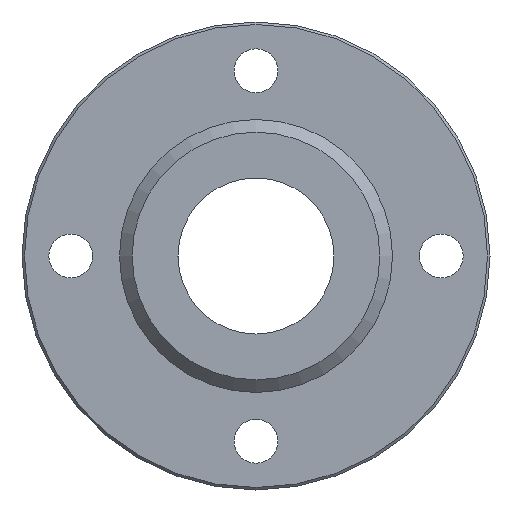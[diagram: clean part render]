
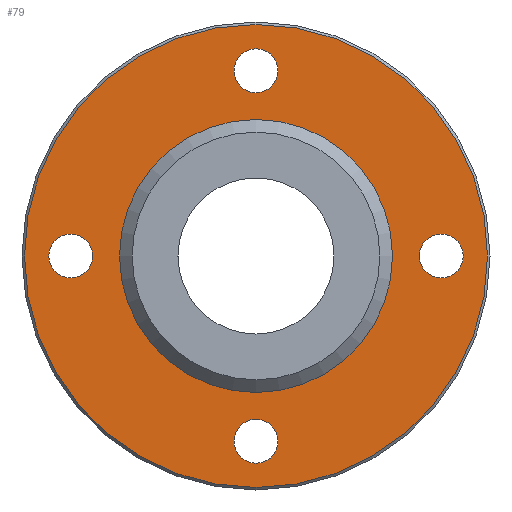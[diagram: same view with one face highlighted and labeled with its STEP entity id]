
A CAD part, left-side view. The second image highlights one B-rep face of the part: STEP entity #79.
In plain terms, the highlighted planar face has unit normal (-1, 0, 0).
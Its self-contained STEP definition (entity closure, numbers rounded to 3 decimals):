
#79=ADVANCED_FACE('',(#109,#110,#111,#112,#113,#114),#115,.F.);
#109=FACE_BOUND('',#180,.T.);
#110=FACE_BOUND('',#181,.T.);
#111=FACE_BOUND('',#182,.T.);
#112=FACE_BOUND('',#183,.T.);
#113=FACE_OUTER_BOUND('',#184,.T.);
#114=FACE_BOUND('',#185,.T.);
#115=PLANE('',#186);
#180=EDGE_LOOP('',(#259));
#181=EDGE_LOOP('',(#260));
#182=EDGE_LOOP('',(#261));
#183=EDGE_LOOP('',(#262));
#184=EDGE_LOOP('',(#263));
#185=EDGE_LOOP('',(#264));
#186=AXIS2_PLACEMENT_3D('',#265,#266,#267);
#259=ORIENTED_EDGE('',*,*,#357,.T.);
#260=ORIENTED_EDGE('',*,*,#358,.T.);
#261=ORIENTED_EDGE('',*,*,#359,.T.);
#262=ORIENTED_EDGE('',*,*,#360,.T.);
#263=ORIENTED_EDGE('',*,*,#361,.T.);
#264=ORIENTED_EDGE('',*,*,#354,.T.);
#265=CARTESIAN_POINT('',(-9.0,23.746,0.0));
#266=DIRECTION('',(1.0,0.0,0.0));
#267=DIRECTION('',(0.0,0.0,-1.0));
#354=EDGE_CURVE('',#381,#381,#382,.T.);
#357=EDGE_CURVE('',#387,#387,#388,.T.);
#358=EDGE_CURVE('',#389,#389,#390,.T.);
#359=EDGE_CURVE('',#391,#391,#392,.T.);
#360=EDGE_CURVE('',#393,#393,#394,.T.);
#361=EDGE_CURVE('',#395,#395,#396,.T.);
#381=VERTEX_POINT('',#431);
#382=CIRCLE('',#432,14.0);
#387=VERTEX_POINT('',#437);
#388=CIRCLE('',#438,2.25);
#389=VERTEX_POINT('',#439);
#390=CIRCLE('',#440,2.25);
#391=VERTEX_POINT('',#441);
#392=CIRCLE('',#442,2.25);
#393=VERTEX_POINT('',#443);
#394=CIRCLE('',#444,2.25);
#395=VERTEX_POINT('',#445);
#396=CIRCLE('',#446,23.746);
#431=CARTESIAN_POINT('',(-9.0,0.0,-14.0));
#432=AXIS2_PLACEMENT_3D('',#483,#484,#485);
#437=CARTESIAN_POINT('',(-9.0,0.,16.75));
#438=AXIS2_PLACEMENT_3D('',#492,#493,#494);
#439=CARTESIAN_POINT('',(-9.0,-19.0,-2.25));
#440=AXIS2_PLACEMENT_3D('',#495,#496,#497);
#441=CARTESIAN_POINT('',(-9.0,0.0,-21.25));
#442=AXIS2_PLACEMENT_3D('',#498,#499,#500);
#443=CARTESIAN_POINT('',(-9.0,19.0,-2.25));
#444=AXIS2_PLACEMENT_3D('',#501,#502,#503);
#445=CARTESIAN_POINT('',(-9.0,0.0,23.746));
#446=AXIS2_PLACEMENT_3D('',#504,#505,#506);
#483=CARTESIAN_POINT('',(-9.0,0.0,0.0));
#484=DIRECTION('',(1.0,0.0,0.0));
#485=DIRECTION('',(0.0,0.0,-1.0));
#492=CARTESIAN_POINT('',(-9.0,0.,19.0));
#493=DIRECTION('',(1.0,0.0,0.0));
#494=DIRECTION('',(0.0,0.0,-1.0));
#495=CARTESIAN_POINT('',(-9.0,-19.0,0.));
#496=DIRECTION('',(1.0,0.0,0.0));
#497=DIRECTION('',(0.0,0.0,-1.0));
#498=CARTESIAN_POINT('',(-9.0,0.0,-19.0));
#499=DIRECTION('',(1.0,0.0,0.0));
#500=DIRECTION('',(0.0,0.0,-1.0));
#501=CARTESIAN_POINT('',(-9.0,19.0,0.0));
#502=DIRECTION('',(1.0,0.0,0.0));
#503=DIRECTION('',(0.0,0.0,-1.0));
#504=CARTESIAN_POINT('',(-9.0,0.0,0.0));
#505=DIRECTION('',(-1.0,0.0,0.0));
#506=DIRECTION('',(0.0,0.0,1.0));
